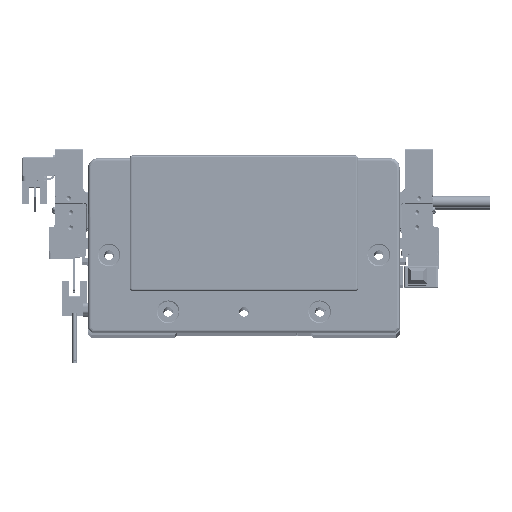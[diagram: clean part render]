
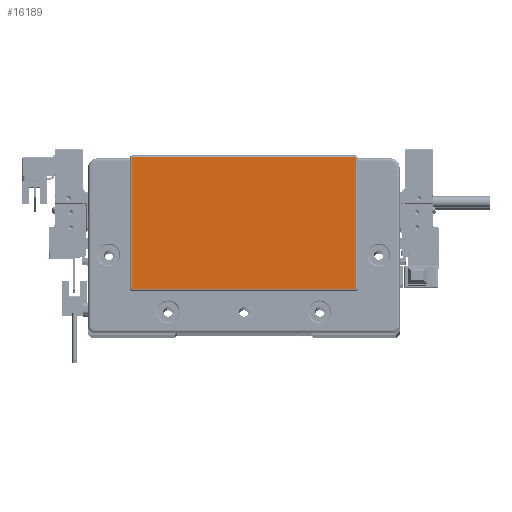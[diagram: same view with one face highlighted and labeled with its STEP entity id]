
A CAD part, top view. The second image highlights one B-rep face of the part: STEP entity #16189.
In plain terms, the highlighted planar face has unit normal (0, 0, 1) as drawn and (0, 0, -1) by its records, which use the part's own axes.
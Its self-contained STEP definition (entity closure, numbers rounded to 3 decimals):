
#335 = CARTESIAN_POINT ( 'NONE',  ( 0., 0., -2. ) ) ;
#2709 = ORIENTED_EDGE ( 'NONE', *, *, #66817, .T. ) ;
#4955 = LINE ( 'NONE', #78276, #70197 ) ;
#10508 = DIRECTION ( 'NONE',  ( -1., 0., 0. ) ) ;
#10526 = VERTEX_POINT ( 'NONE', #20976 ) ;
#14632 = CARTESIAN_POINT ( 'NONE',  ( -59.25, 45.3, -2. ) ) ;
#15085 = EDGE_CURVE ( 'NONE', #10526, #18662, #62053, .T. ) ;
#16189 = ADVANCED_FACE ( 'NONE', ( #43763 ), #66435, .T. ) ;
#17184 = AXIS2_PLACEMENT_3D ( 'NONE', #69787, #48078, #63982 ) ;
#18662 = VERTEX_POINT ( 'NONE', #90037 ) ;
#19090 = AXIS2_PLACEMENT_3D ( 'NONE', #335, #88594, #22579 ) ;
#19805 = DIRECTION ( 'NONE',  ( -1., 0., 0. ) ) ;
#20409 = ORIENTED_EDGE ( 'NONE', *, *, #73440, .T. ) ;
#20976 = CARTESIAN_POINT ( 'NONE',  ( -58.75, -23.8, -2. ) ) ;
#22579 = DIRECTION ( 'NONE',  ( -1., 0., 0. ) ) ;
#24592 = VERTEX_POINT ( 'NONE', #80129 ) ;
#25328 = DIRECTION ( 'NONE',  ( -1., 0., 0. ) ) ;
#25783 = VERTEX_POINT ( 'NONE', #84659 ) ;
#26900 = VERTEX_POINT ( 'NONE', #45972 ) ;
#27110 = EDGE_CURVE ( 'NONE', #24592, #31302, #78667, .T. ) ;
#28858 = LINE ( 'NONE', #51045, #71522 ) ;
#31115 = CARTESIAN_POINT ( 'NONE',  ( -58.75, -23.3, -2. ) ) ;
#31302 = VERTEX_POINT ( 'NONE', #69930 ) ;
#32426 = DIRECTION ( 'NONE',  ( 1., 0., 0. ) ) ;
#33235 = CARTESIAN_POINT ( 'NONE',  ( -58.75, -23.8, -2. ) ) ;
#33488 = ORIENTED_EDGE ( 'NONE', *, *, #87202, .T. ) ;
#33782 = EDGE_CURVE ( 'NONE', #57921, #65148, #68687, .T. ) ;
#33842 = LINE ( 'NONE', #63290, #35053 ) ;
#35053 = VECTOR ( 'NONE', #32426, 1000. ) ;
#38083 = CARTESIAN_POINT ( 'NONE',  ( -58.75, 45.8, -2. ) ) ;
#38962 = CARTESIAN_POINT ( 'NONE',  ( 58.75, -23.3, -2. ) ) ;
#39302 = DIRECTION ( 'NONE',  ( 0., 0., -1. ) ) ;
#39852 = ORIENTED_EDGE ( 'NONE', *, *, #27110, .T. ) ;
#40527 = CARTESIAN_POINT ( 'NONE',  ( -58.75, 45.3, -2. ) ) ;
#41928 = EDGE_CURVE ( 'NONE', #18662, #57921, #4955, .T. ) ;
#41983 = AXIS2_PLACEMENT_3D ( 'NONE', #31115, #39302, #25328 ) ;
#43493 = EDGE_CURVE ( 'NONE', #65148, #25783, #33842, .T. ) ;
#43763 = FACE_OUTER_BOUND ( 'NONE', #86746, .T. ) ;
#45972 = CARTESIAN_POINT ( 'NONE',  ( 59.25, 45.3, -2. ) ) ;
#47140 = ORIENTED_EDGE ( 'NONE', *, *, #15085, .T. ) ;
#48078 = DIRECTION ( 'NONE',  ( 0., 0., -1. ) ) ;
#50255 = AXIS2_PLACEMENT_3D ( 'NONE', #40527, #85822, #19805 ) ;
#51045 = CARTESIAN_POINT ( 'NONE',  ( 59.25, -23.3, -2. ) ) ;
#56620 = ORIENTED_EDGE ( 'NONE', *, *, #43493, .T. ) ;
#57921 = VERTEX_POINT ( 'NONE', #14632 ) ;
#60788 = VECTOR ( 'NONE', #75681, 1000. ) ;
#62053 = CIRCLE ( 'NONE', #41983, 0.5 ) ;
#63290 = CARTESIAN_POINT ( 'NONE',  ( 58.75, 45.8, -2. ) ) ;
#63845 = DIRECTION ( 'NONE',  ( 0., 1., 0. ) ) ;
#63982 = DIRECTION ( 'NONE',  ( -1., 0., 0. ) ) ;
#64907 = ORIENTED_EDGE ( 'NONE', *, *, #41928, .T. ) ;
#65148 = VERTEX_POINT ( 'NONE', #38083 ) ;
#66435 = PLANE ( 'NONE',  #19090 ) ;
#66817 = EDGE_CURVE ( 'NONE', #25783, #26900, #85033, .T. ) ;
#68687 = CIRCLE ( 'NONE', #50255, 0.5 ) ;
#69354 = DIRECTION ( 'NONE',  ( 0., 0., -1. ) ) ;
#69787 = CARTESIAN_POINT ( 'NONE',  ( 58.75, 45.3, -2. ) ) ;
#69930 = CARTESIAN_POINT ( 'NONE',  ( 58.75, -23.8, -2. ) ) ;
#70197 = VECTOR ( 'NONE', #63845, 1000. ) ;
#71522 = VECTOR ( 'NONE', #80408, 1000. ) ;
#73440 = EDGE_CURVE ( 'NONE', #26900, #24592, #28858, .T. ) ;
#75681 = DIRECTION ( 'NONE',  ( -1., 0., 0. ) ) ;
#78276 = CARTESIAN_POINT ( 'NONE',  ( -59.25, 45.3, -2. ) ) ;
#78398 = ORIENTED_EDGE ( 'NONE', *, *, #33782, .T. ) ;
#78667 = CIRCLE ( 'NONE', #81710, 0.5 ) ;
#80129 = CARTESIAN_POINT ( 'NONE',  ( 59.25, -23.3, -2. ) ) ;
#80408 = DIRECTION ( 'NONE',  ( 0., -1., 0. ) ) ;
#81710 = AXIS2_PLACEMENT_3D ( 'NONE', #38962, #69354, #10508 ) ;
#83380 = LINE ( 'NONE', #33235, #60788 ) ;
#84659 = CARTESIAN_POINT ( 'NONE',  ( 58.75, 45.8, -2. ) ) ;
#85033 = CIRCLE ( 'NONE', #17184, 0.5 ) ;
#85822 = DIRECTION ( 'NONE',  ( 0., 0., -1. ) ) ;
#86746 = EDGE_LOOP ( 'NONE', ( #20409, #39852, #33488, #47140, #64907, #78398, #56620, #2709 ) ) ;
#87202 = EDGE_CURVE ( 'NONE', #31302, #10526, #83380, .T. ) ;
#88594 = DIRECTION ( 'NONE',  ( 0., 0., -1. ) ) ;
#90037 = CARTESIAN_POINT ( 'NONE',  ( -59.25, -23.3, -2. ) ) ;
